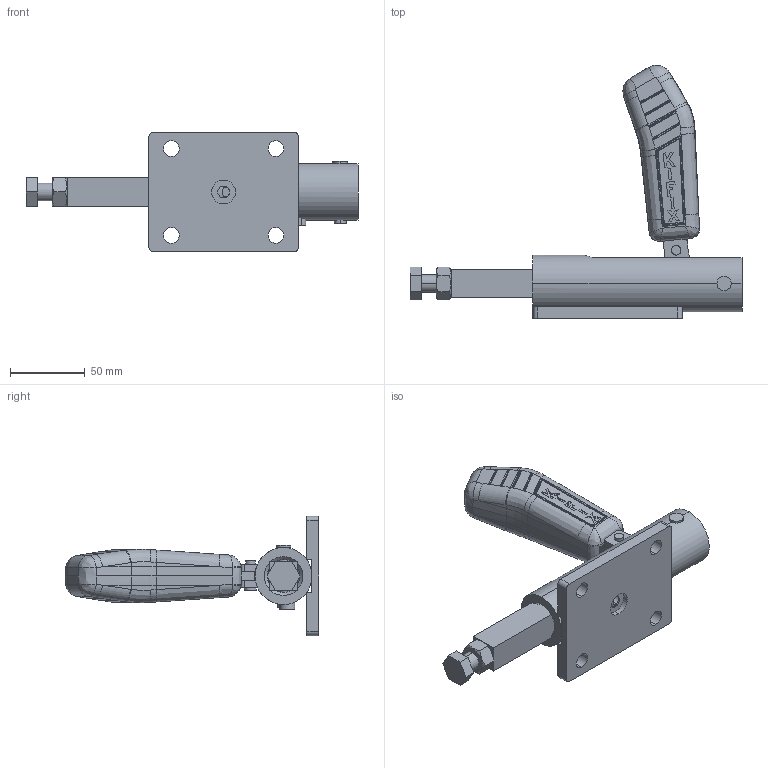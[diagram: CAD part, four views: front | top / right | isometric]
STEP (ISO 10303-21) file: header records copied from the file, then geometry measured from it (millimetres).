
FILE_DESCRIPTION (( 'STEP AP203' ), '1' );
FILE_NAME ('KFKT-012.STEP', '2014-08-26T19:02:09', ( 'Ricardo' ), ( '' ), 'SwSTEP 2.0', 'SolidWorks 2013', '' );
FILE_SCHEMA (( 'CONFIG_CONTROL_DESIGN' ));
Length unit declared in the file: millimetre
Products named in the file (16): 12.50022; 3670000073; KFKT-012; PP-M12; Subconjunto Cabo KFKT; 07.60003; 03.20042; 08.10045; 06.50038; 02.10022; 06.50039; 02.20005_quadrado; 06.50040; 01.10176; 11.50004; 01.10177
Assembly tree (16 placements, depth 3):
  KFKT-012
    02.10022
    02.20005_quadrado
    Subconjunto Cabo KFKT
      01.10176
      01.10177  x2
      3670000073
    03.20042
    08.10045
    06.50038
    06.50039
    06.50040
    PP-M12
      11.50004
      12.50022
    07.60003
Bounding box: 222.34 x 169.72 x 80 mm (x, y, z)
Volume: 317419.2 mm3; surface area: 108324.8 mm2
Topology: 14 solids, 14 shells, 635 faces, 1626 edges, 1026 vertices
Faces by surface type: plane 206, cylinder 197, bspline 143, sphere 48, cone 38, torus 3
Entity records: 24242 total; most frequent: CARTESIAN_POINT 9144, ORIENTED_EDGE 3088, DIRECTION 2360, EDGE_CURVE 1544, VERTEX_POINT 982, AXIS2_PLACEMENT_3D 922, EDGE_LOOP 676, ADVANCED_FACE 613
